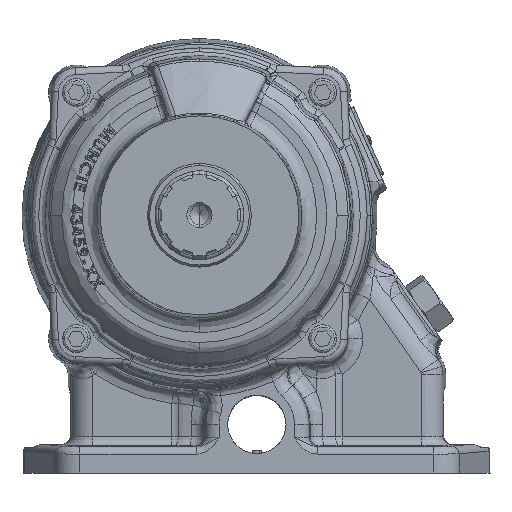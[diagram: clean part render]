
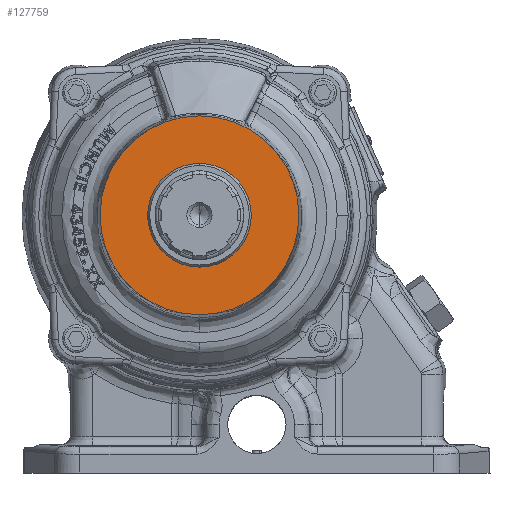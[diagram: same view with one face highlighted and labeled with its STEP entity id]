
A CAD part, top view. The second image highlights one B-rep face of the part: STEP entity #127759.
In plain terms, the highlighted planar face has unit normal (0, 0, 1).
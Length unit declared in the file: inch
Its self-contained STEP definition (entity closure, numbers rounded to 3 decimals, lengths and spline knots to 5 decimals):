
#1097 = EDGE_CURVE ( 'NONE', #99629, #142897, #152648, .T. ) ;
#4505 = CARTESIAN_POINT ( 'NONE',  ( -4.46082, 3.86356, 6.81989 ) ) ;
#13776 = CIRCLE ( 'NONE', #100608, 0.875 ) ;
#19655 = EDGE_LOOP ( 'NONE', ( #154705, #125409 ) ) ;
#20204 = AXIS2_PLACEMENT_3D ( 'NONE', #109419, #55038, #54199 ) ;
#29539 = AXIS2_PLACEMENT_3D ( 'NONE', #161498, #148389, #57161 ) ;
#32650 = EDGE_CURVE ( 'NONE', #142897, #99629, #34261, .T. ) ;
#34261 = CIRCLE ( 'NONE', #20204, 1.67787 ) ;
#36027 = EDGE_LOOP ( 'NONE', ( #111667, #125235 ) ) ;
#36919 = VERTEX_POINT ( 'NONE', #157938 ) ;
#38551 = AXIS2_PLACEMENT_3D ( 'NONE', #153195, #74246, #140891 ) ;
#39663 = DIRECTION ( 'NONE',  ( 0., 0., 1. ) ) ;
#48121 = VERTEX_POINT ( 'NONE', #125045 ) ;
#51859 = AXIS2_PLACEMENT_3D ( 'NONE', #141025, #99010, #59517 ) ;
#52745 = DIRECTION ( 'NONE',  ( 1., 0., 0. ) ) ;
#52748 = EDGE_CURVE ( 'NONE', #48121, #36919, #13776, .T. ) ;
#54199 = DIRECTION ( 'NONE',  ( 0., 1., 0. ) ) ;
#55038 = DIRECTION ( 'NONE',  ( 0., 0., 1. ) ) ;
#57161 = DIRECTION ( 'NONE',  ( 1., 0., 0. ) ) ;
#59517 = DIRECTION ( 'NONE',  ( 0., 1., 0. ) ) ;
#74246 = DIRECTION ( 'NONE',  ( 0., 0., 1. ) ) ;
#99010 = DIRECTION ( 'NONE',  ( 0., 0., 1. ) ) ;
#99629 = VERTEX_POINT ( 'NONE', #106231 ) ;
#100608 = AXIS2_PLACEMENT_3D ( 'NONE', #145689, #39663, #52745 ) ;
#106231 = CARTESIAN_POINT ( 'NONE',  ( -4.46082, 0.50783, 6.81989 ) ) ;
#109419 = CARTESIAN_POINT ( 'NONE',  ( -4.46082, 2.1857, 6.81989 ) ) ;
#111667 = ORIENTED_EDGE ( 'NONE', *, *, #52748, .F. ) ;
#114097 = CIRCLE ( 'NONE', #38551, 0.875 ) ;
#125045 = CARTESIAN_POINT ( 'NONE',  ( -5.33582, 2.1857, 6.81989 ) ) ;
#125235 = ORIENTED_EDGE ( 'NONE', *, *, #157532, .F. ) ;
#125409 = ORIENTED_EDGE ( 'NONE', *, *, #1097, .T. ) ;
#127759 = ADVANCED_FACE ( 'NONE', ( #157170, #145787 ), #129161, .T. ) ;
#129161 = PLANE ( 'NONE',  #29539 ) ;
#140891 = DIRECTION ( 'NONE',  ( 1., 0., 0. ) ) ;
#141025 = CARTESIAN_POINT ( 'NONE',  ( -4.46082, 2.1857, 6.81989 ) ) ;
#142897 = VERTEX_POINT ( 'NONE', #4505 ) ;
#145689 = CARTESIAN_POINT ( 'NONE',  ( -4.46082, 2.1857, 6.81989 ) ) ;
#145787 = FACE_OUTER_BOUND ( 'NONE', #19655, .T. ) ;
#148389 = DIRECTION ( 'NONE',  ( 0., 0., 1. ) ) ;
#152648 = CIRCLE ( 'NONE', #51859, 1.67787 ) ;
#153195 = CARTESIAN_POINT ( 'NONE',  ( -4.46082, 2.1857, 6.81989 ) ) ;
#154705 = ORIENTED_EDGE ( 'NONE', *, *, #32650, .T. ) ;
#157170 = FACE_BOUND ( 'NONE', #36027, .T. ) ;
#157532 = EDGE_CURVE ( 'NONE', #36919, #48121, #114097, .T. ) ;
#157938 = CARTESIAN_POINT ( 'NONE',  ( -3.58582, 2.1857, 6.81989 ) ) ;
#161498 = CARTESIAN_POINT ( 'NONE',  ( -4.46082, 2.1857, 6.81989 ) ) ;
